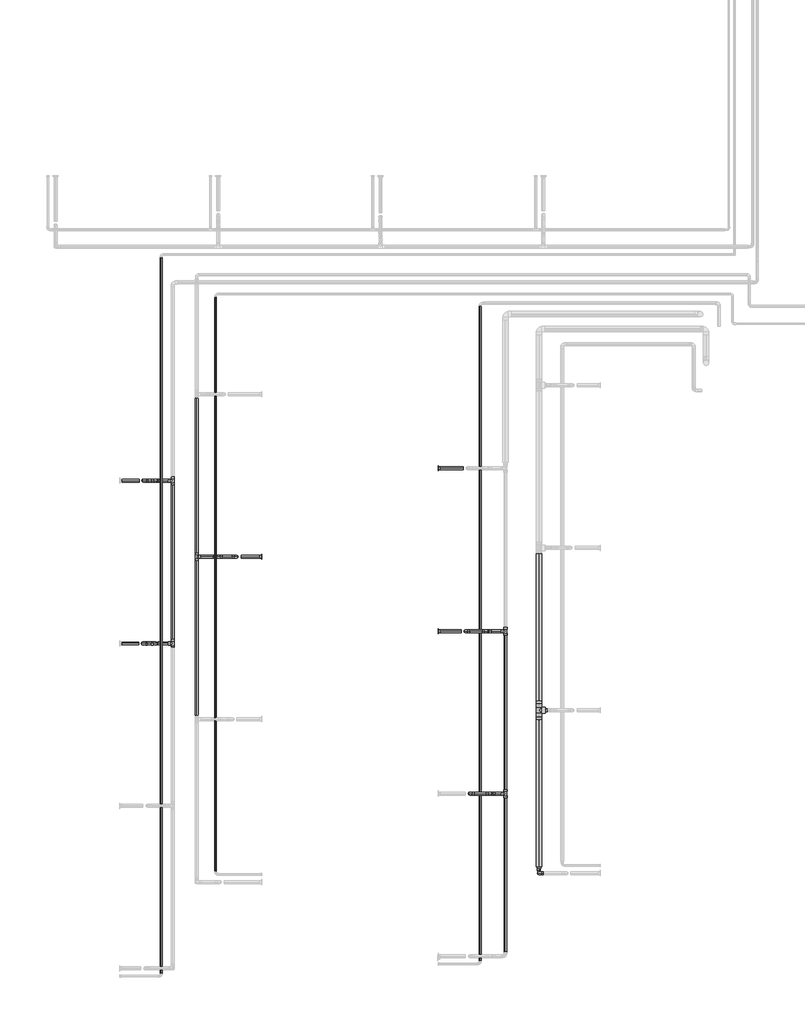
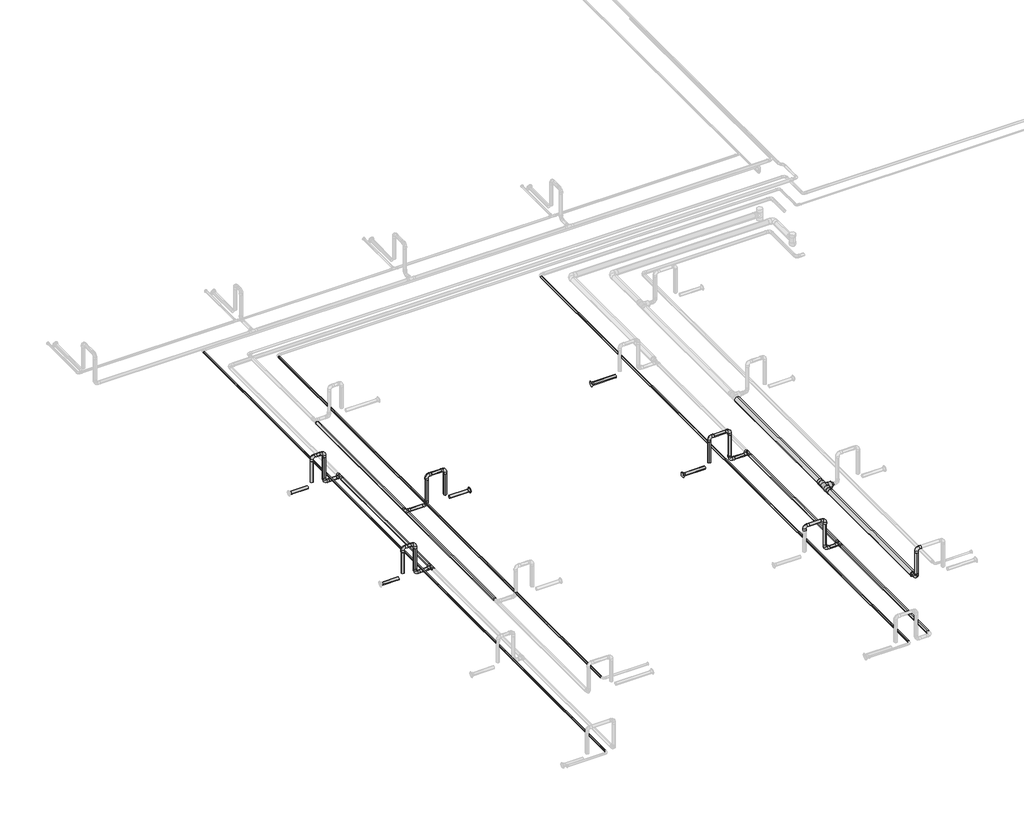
# One storey, part 2 of 22: 35 pipe segments, 30 pipe fittings.
"""IFC4 building model written with IfcOpenShell, lengths in millimetres."""

from ifc_helpers import new_model, si_unit, point, frame, frame_2d, origin, place, context, project, spatial, circle_curve, trimmed, segment, composite_curve, outline, extrude, transform, mapped, element, save
from components import pipe_fitting_06198d9f, pipe_fitting_f709da16, pipe_fitting_c89cbe9b, pipe_fitting_12d4bf2b, pipe_fitting_fefc82c8, pipe_fitting_3263ca60, pipe_fitting_ae0032d9

model = new_model("IFC4")

# Units and contexts
model_context = context("Model", 3, world=origin())
ifc_project = project(units=[si_unit("LENGTHUNIT", "METRE", prefix="MILLI")], contexts=[model_context])

# Site, building, storey
site = spatial("IfcSite", under=ifc_project)
building = spatial("IfcBuilding", under=site)
storey = spatial("IfcBuildingStorey", under=building, Name="Nível 2", Elevation=3880.0)

# Pipe fittings
placement = place(None, origin())
pipe_fitting_shape = pipe_fitting_06198d9f(model_context)
element("IfcPipeFitting", 1, ObjectType="Tê - Soldado - CU : Padrão", at=placement, inside=storey, context=model_context, shape_type="MappedRepresentation", body=[
    mapped(pipe_fitting_shape, transform((-8077.8302691, -6346.4373291, 3918.9), x_axis=(0.0, -1.0, 0.0), y_axis=(-1.0, 0.0, 0.0), z_axis=(0.0, 0.0, -1.0))),
])
pipe_fitting_2_shape = pipe_fitting_f709da16(model_context)
element("IfcPipeFitting", 2, ObjectType="Bucha de redução reta - Soldada - CU : Padrão", at=placement, inside=storey, context=model_context, shape_type="MappedRepresentation", body=[
    mapped(pipe_fitting_2_shape, transform((-8077.8302691, -6286.2873291, 3918.9), x_axis=(0.0, 1.0, 0.0), y_axis=(-1.0, 0.0, 0.0), z_axis=(0.0, 0.0, 1.0))),
])
element("IfcPipeFitting", 3, ObjectType="Bucha de redução reta - Soldada - CU : Padrão", at=placement, inside=storey, context=model_context, shape_type="MappedRepresentation", body=[
    mapped(pipe_fitting_2_shape, transform((-8077.8302691, -6406.5873291, 3918.9), x_axis=(0.0, -1.0, 0.0), y_axis=(1.0, 0.0, 0.0), z_axis=(0.0, 0.0, 1.0))),
])
pipe_fitting_3_shape = pipe_fitting_c89cbe9b(model_context)
element("IfcPipeFitting", 4, ObjectType="Bucha de redução reta - Soldada - CU : Padrão", at=placement, inside=storey, context=model_context, shape_type="MappedRepresentation", body=[
    mapped(pipe_fitting_3_shape, transform((-8017.8202691, -6346.4373291, 3918.9), x_axis=(1.0, 0.0, 0.0), y_axis=(0.0, 1.0, 0.0), z_axis=(0.0, 0.0, 1.0))),
])
pipe_fitting_4_shape = pipe_fitting_12d4bf2b(model_context)
element("IfcPipeFitting", 5, ObjectType="Bucha de redução reta - Soldada - CU : Padrão", at=placement, inside=storey, context=model_context, shape_type="MappedRepresentation", body=[
    mapped(pipe_fitting_4_shape, transform((-8077.8302691, -7848.2373291, 3918.9), x_axis=(0.0, 1.0, 0.0), y_axis=(-1.0, 0.0, 0.0), z_axis=(0.0, 0.0, 1.0))),
])
pipe_fitting_5_shape = pipe_fitting_fefc82c8(model_context)
element("IfcPipeFitting", 6, ObjectType="Cotovelo - Soldado - CU : Padrão", at=placement, inside=storey, context=model_context, shape_type="MappedRepresentation", body=[
    mapped(pipe_fitting_5_shape, transform((-8734.9926917, -7136.4473557, 4218.9), x_axis=(0.0, 0.0, 1.0), y_axis=(1.0, 0.0, 0.0), z_axis=(0.0, 1.0, 0.0))),
])
element("IfcPipeFitting", 7, ObjectType="Cotovelo - Soldado - CU : Padrão", at=placement, inside=storey, context=model_context, shape_type="MappedRepresentation", body=[
    mapped(pipe_fitting_5_shape, transform((-8534.9926917, -7136.4473557, 4218.9), x_axis=(1.0, 0.0, 0.0), y_axis=(0.0, 0.0, -1.0), z_axis=(0.0, 1.0, 0.0))),
])
element("IfcPipeFitting", 8, ObjectType="Cotovelo - Soldado - CU : Padrão", at=placement, inside=storey, context=model_context, shape_type="MappedRepresentation", body=[
    mapped(pipe_fitting_5_shape, transform((-8534.9926917, -7136.4473557, 3918.9), x_axis=(0.0, 0.0, -1.0), y_axis=(1.0, 0.0, 0.0), z_axis=(0.0, -1.0, 0.0))),
])
element("IfcPipeFitting", 9, ObjectType="Cotovelo - Soldado - CU : Padrão", at=placement, inside=storey, context=model_context, shape_type="MappedRepresentation", body=[
    mapped(pipe_fitting_5_shape, transform((-8774.9926918, -5597.4473557, 4218.9), x_axis=(0.0, 0.0, 1.0), y_axis=(1.0, 0.0, 0.0), z_axis=(0.0, 1.0, 0.0))),
])
element("IfcPipeFitting", 10, ObjectType="Cotovelo - Soldado - CU : Padrão", at=placement, inside=storey, context=model_context, shape_type="MappedRepresentation", body=[
    mapped(pipe_fitting_5_shape, transform((-8574.9926918, -5597.4473557, 4218.9), x_axis=(1.0, 0.0, 0.0), y_axis=(0.0, 0.0, -1.0), z_axis=(0.0, 1.0, 0.0))),
])
element("IfcPipeFitting", 11, ObjectType="Cotovelo - Soldado - CU : Padrão", at=placement, inside=storey, context=model_context, shape_type="MappedRepresentation", body=[
    mapped(pipe_fitting_5_shape, transform((-8574.9926918, -5597.4473557, 3918.9), x_axis=(0.0, 0.0, -1.0), y_axis=(1.0, 0.0, 0.0), z_axis=(0.0, -1.0, 0.0))),
])
element("IfcPipeFitting", 12, ObjectType="Cotovelo - Soldado - CU : Padrão", at=placement, inside=storey, context=model_context, shape_type="MappedRepresentation", body=[
    mapped(pipe_fitting_5_shape, transform((-8077.8302691, -7890.4373291, 4218.9), x_axis=(-1.0, 0.0, 0.0), y_axis=(0.0, 0.0, -1.0), z_axis=(0.0, -1.0, 0.0))),
])
element("IfcPipeFitting", 13, ObjectType="Cotovelo - Soldado - CU : Padrão", at=placement, inside=storey, context=model_context, shape_type="MappedRepresentation", body=[
    mapped(pipe_fitting_5_shape, transform((-8077.8302691, -7890.4373291, 3918.9), x_axis=(0.0, 0.0, -1.0), y_axis=(0.0, 1.0, 0.0), z_axis=(1.0, 0.0, 0.0))),
])
element("IfcPipeFitting", 14, ObjectType="Cotovelo - Soldado - CU : Padrão", at=placement, inside=storey, context=model_context, shape_type="MappedRepresentation", body=[
    mapped(pipe_fitting_5_shape, transform((-10943.5282245, -4892.3118218, 4218.9), x_axis=(0.0, 0.0, 1.0), y_axis=(-1.0, 0.0, 0.0), z_axis=(0.0, -1.0, 0.0))),
])
element("IfcPipeFitting", 15, ObjectType="Cotovelo - Soldado - CU : Padrão", at=placement, inside=storey, context=model_context, shape_type="MappedRepresentation", body=[
    mapped(pipe_fitting_5_shape, transform((-11123.5282245, -4892.3118218, 4218.9), x_axis=(-1.0, 0.0, 0.0), y_axis=(0.0, 0.0, -1.0), z_axis=(0.0, -1.0, 0.0))),
])
element("IfcPipeFitting", 16, ObjectType="Cotovelo - Soldado - CU : Padrão", at=placement, inside=storey, context=model_context, shape_type="MappedRepresentation", body=[
    mapped(pipe_fitting_5_shape, transform((-11123.5282245, -4892.3118218, 3918.9), x_axis=(0.0, 0.0, -1.0), y_axis=(-1.0, 0.0, 0.0), z_axis=(0.0, 1.0, 0.0))),
])
element("IfcPipeFitting", 17, ObjectType="Cotovelo - Soldado - CU : Padrão", at=placement, inside=storey, context=model_context, shape_type="MappedRepresentation", body=[
    mapped(pipe_fitting_5_shape, transform((-11831.2126648, -5713.9118218, 4218.9), x_axis=(0.0, 0.0, 1.0), y_axis=(1.0, 0.0, 0.0), z_axis=(0.0, 1.0, 0.0))),
])
element("IfcPipeFitting", 18, ObjectType="Cotovelo - Soldado - CU : Padrão", at=placement, inside=storey, context=model_context, shape_type="MappedRepresentation", body=[
    mapped(pipe_fitting_5_shape, transform((-11711.2126648, -5713.9118218, 4218.9), x_axis=(1.0, 0.0, 0.0), y_axis=(0.0, 0.0, -1.0), z_axis=(0.0, 1.0, 0.0))),
])
element("IfcPipeFitting", 19, ObjectType="Cotovelo - Soldado - CU : Padrão", at=placement, inside=storey, context=model_context, shape_type="MappedRepresentation", body=[
    mapped(pipe_fitting_5_shape, transform((-11711.2126648, -5713.9118218, 3918.9), x_axis=(0.0, 0.0, -1.0), y_axis=(1.0, 0.0, 0.0), z_axis=(0.0, -1.0, 0.0))),
])
element("IfcPipeFitting", 20, ObjectType="Cotovelo - Soldado - CU : Padrão", at=placement, inside=storey, context=model_context, shape_type="MappedRepresentation", body=[
    mapped(pipe_fitting_5_shape, transform((-11826.2126648, -4169.9118218, 4218.9), x_axis=(0.0, 0.0, 1.0), y_axis=(1.0, 0.0, 0.0), z_axis=(0.0, 1.0, 0.0))),
])
element("IfcPipeFitting", 21, ObjectType="Cotovelo - Soldado - CU : Padrão", at=placement, inside=storey, context=model_context, shape_type="MappedRepresentation", body=[
    mapped(pipe_fitting_5_shape, transform((-11706.2126648, -4169.9118218, 4218.9), x_axis=(1.0, 0.0, 0.0), y_axis=(0.0, 0.0, -1.0), z_axis=(0.0, 1.0, 0.0))),
])
element("IfcPipeFitting", 22, ObjectType="Cotovelo - Soldado - CU : Padrão", at=placement, inside=storey, context=model_context, shape_type="MappedRepresentation", body=[
    mapped(pipe_fitting_5_shape, transform((-11706.2126648, -4169.9118218, 3918.9), x_axis=(0.0, 0.0, -1.0), y_axis=(1.0, 0.0, 0.0), z_axis=(0.0, -1.0, 0.0))),
])
pipe_fitting_6_shape = pipe_fitting_3263ca60(model_context)
element("IfcPipeFitting", 23, ObjectType="Bucha de redução reta - Soldada - CU : Padrão", at=placement, inside=storey, context=model_context, shape_type="MappedRepresentation", body=[
    mapped(pipe_fitting_6_shape, transform((-9034.9926912, -5597.4473557, 3918.8823309), x_axis=(1.0, 0.0, 0.0), y_axis=(0.0, 1.0, 0.0), z_axis=(0.0, 0.0, 1.0))),
])
element("IfcPipeFitting", 24, ObjectType="Bucha de redução reta - Soldada - CU : Padrão", at=placement, inside=storey, context=model_context, shape_type="MappedRepresentation", body=[
    mapped(pipe_fitting_6_shape, transform((-9034.9926912, -4053.4473557, 3918.8823309), x_axis=(1.0, 0.0, 0.0), y_axis=(0.0, 1.0, 0.0), z_axis=(0.0, 0.0, 1.0))),
])
element("IfcPipeFitting", 25, ObjectType="Bucha de redução reta - Soldada - CU : Padrão", at=placement, inside=storey, context=model_context, shape_type="MappedRepresentation", body=[
    mapped(pipe_fitting_6_shape, transform((-10703.5282251, -4892.3118218, 3918.8823309), x_axis=(-1.0, 0.0, 0.0), y_axis=(0.0, -1.0, 0.0), z_axis=(0.0, 0.0, 1.0))),
])
pipe_fitting_7_shape = pipe_fitting_ae0032d9(model_context)
element("IfcPipeFitting", 26, ObjectType="Tê - Soldado - CU : Padrão", at=placement, inside=storey, context=model_context, shape_type="MappedRepresentation", body=[
    mapped(pipe_fitting_7_shape, transform((-8395.5926914, -7136.4473557, 3918.9), x_axis=(0.0, -1.0, 0.0), y_axis=(1.0, 0.0, 0.0), z_axis=(0.0, 0.0, 1.0))),
])
element("IfcPipeFitting", 27, ObjectType="Tê - Soldado - CU : Padrão", at=placement, inside=storey, context=model_context, shape_type="MappedRepresentation", body=[
    mapped(pipe_fitting_7_shape, transform((-8395.5926914, -5597.4473557, 3918.9), x_axis=(0.0, -1.0, 0.0), y_axis=(1.0, 0.0, 0.0), z_axis=(0.0, 0.0, 1.0))),
])
element("IfcPipeFitting", 28, ObjectType="Tê - Soldado - CU : Padrão", at=placement, inside=storey, context=model_context, shape_type="MappedRepresentation", body=[
    mapped(pipe_fitting_7_shape, transform((-11323.5282247, -4892.3118218, 3918.9), x_axis=(0.0, -1.0, 0.0), y_axis=(-1.0, 0.0, 0.0), z_axis=(0.0, 0.0, -1.0))),
])
element("IfcPipeFitting", 29, ObjectType="Tê - Soldado - CU : Padrão", at=placement, inside=storey, context=model_context, shape_type="MappedRepresentation", body=[
    mapped(pipe_fitting_7_shape, transform((-11551.2126646, -5713.9118218, 3918.9), x_axis=(0.0, -1.0, 0.0), y_axis=(1.0, 0.0, 0.0), z_axis=(0.0, 0.0, 1.0))),
])
element("IfcPipeFitting", 30, ObjectType="Tê - Soldado - CU : Padrão", at=placement, inside=storey, context=model_context, shape_type="MappedRepresentation", body=[
    mapped(pipe_fitting_7_shape, transform((-11551.2126646, -4169.9118218, 3918.9), x_axis=(0.0, -1.0, 0.0), y_axis=(1.0, 0.0, 0.0), z_axis=(0.0, 0.0, 1.0))),
])

# Pipe segments
element("IfcPipeSegment", 31, ObjectType="Tubos de cobre HVAC", at=placement, inside=storey, context=model_context, shape_type="SweptSolid", body=[
    extrude(outline(composite_curve([segment(trimmed(circle_curve(frame_2d((-7136.4473557, 4218.9)), 14.0), [point((-7150.4473557, 4218.9))], [point((-7136.4473557, 4232.9))], False, "CARTESIAN"), True, "CONTINUOUS"), segment(trimmed(circle_curve(frame_2d((-7136.4473557, 4218.9)), 14.0), [point((-7136.4473557, 4232.9))], [point((-7122.4473557, 4218.9))], False, "CARTESIAN"), True, "CONTINUOUS"), segment(trimmed(circle_curve(frame_2d((-7136.4473557, 4218.9)), 14.0), [point((-7122.4473557, 4218.9))], [point((-7136.4473557, 4204.9))], False, "CARTESIAN"), True, "CONTINUOUS"), segment(trimmed(circle_curve(frame_2d((-7136.4473557, 4218.9)), 14.0), [point((-7136.4473557, 4204.9))], [point((-7150.4473557, 4218.9))], False, "CARTESIAN"), True, "CONTINUOUS")], self_intersect=False)), frame((-8692.7926917, 0.0, 0.0), z_axis=(1.0, 0.0, 0.0), x_axis=(0.0, 1.0, 0.0)), (0.0, 0.0, 1.0), 115.6),
])
element("IfcPipeSegment", 32, ObjectType="Tubos de cobre HVAC", at=placement, inside=storey, context=model_context, shape_type="SweptSolid", body=[
    extrude(outline(composite_curve([segment(trimmed(circle_curve(frame_2d((-8534.9926917, -7136.4473557)), 14.0), [point((-8548.9926917, -7136.4473557))], [point((-8534.9926917, -7122.4473557))], False, "CARTESIAN"), True, "CONTINUOUS"), segment(trimmed(circle_curve(frame_2d((-8534.9926917, -7136.4473557)), 14.0), [point((-8534.9926917, -7122.4473557))], [point((-8520.9926917, -7136.4473557))], False, "CARTESIAN"), True, "CONTINUOUS"), segment(trimmed(circle_curve(frame_2d((-8534.9926917, -7136.4473557)), 14.0), [point((-8520.9926917, -7136.4473557))], [point((-8534.9926917, -7150.4473557))], False, "CARTESIAN"), True, "CONTINUOUS"), segment(trimmed(circle_curve(frame_2d((-8534.9926917, -7136.4473557)), 14.0), [point((-8534.9926917, -7150.4473557))], [point((-8548.9926917, -7136.4473557))], False, "CARTESIAN"), True, "CONTINUOUS")], self_intersect=False)), frame((0.0, 0.0, 3961.1), z_axis=(0.0, 0.0, 1.0), x_axis=(1.0, 0.0, 0.0)), (0.0, 0.0, 1.0), 215.6),
])
element("IfcPipeSegment", 33, ObjectType="Tubos de cobre HVAC", at=placement, inside=storey, context=model_context, shape_type="SweptSolid", body=[
    extrude(outline(composite_curve([segment(trimmed(circle_curve(frame_2d((-7136.4473557, 3918.9)), 14.0), [point((-7122.4473557, 3918.9))], [point((-7136.4473557, 3904.9))], False, "CARTESIAN"), True, "CONTINUOUS"), segment(trimmed(circle_curve(frame_2d((-7136.4473557, 3918.9)), 14.0), [point((-7136.4473557, 3904.9))], [point((-7150.4473557, 3918.9))], False, "CARTESIAN"), True, "CONTINUOUS"), segment(trimmed(circle_curve(frame_2d((-7136.4473557, 3918.9)), 14.0), [point((-7150.4473557, 3918.9))], [point((-7136.4473557, 3932.9))], False, "CARTESIAN"), True, "CONTINUOUS"), segment(trimmed(circle_curve(frame_2d((-7136.4473557, 3918.9)), 14.0), [point((-7136.4473557, 3932.9))], [point((-7122.4473557, 3918.9))], False, "CARTESIAN"), True, "CONTINUOUS")], self_intersect=False)), frame((-8492.7926917, 0.0, 0.0), z_axis=(1.0, 0.0, 0.0), x_axis=(0.0, 1.0, 0.0)), (0.0, 0.0, 1.0), 58.7000003),
])
element("IfcPipeSegment", 34, ObjectType="Tubos de cobre HVAC", at=placement, inside=storey, context=model_context, shape_type="SweptSolid", body=[
    extrude(outline(composite_curve([segment(trimmed(circle_curve(frame_2d((3918.9, -8395.5926914)), 14.0), [point((3918.9, -8381.5926914))], [point((3932.9, -8395.5926914))], False, "CARTESIAN"), True, "CONTINUOUS"), segment(trimmed(circle_curve(frame_2d((3918.9, -8395.5926914)), 14.0), [point((3932.9, -8395.5926914))], [point((3918.9, -8409.5926914))], False, "CARTESIAN"), True, "CONTINUOUS"), segment(trimmed(circle_curve(frame_2d((3918.9, -8395.5926914)), 14.0), [point((3918.9, -8409.5926914))], [point((3904.9, -8395.5926914))], False, "CARTESIAN"), True, "CONTINUOUS"), segment(trimmed(circle_curve(frame_2d((3918.9, -8395.5926914)), 14.0), [point((3904.9, -8395.5926914))], [point((3918.9, -8381.5926914))], False, "CARTESIAN"), True, "CONTINUOUS")], self_intersect=False)), frame((0.0, -8635.2473557, 0.0), z_axis=(0.0, 1.0, 0.0), x_axis=(0.0, 0.0, 1.0)), (0.0, 0.0, 1.0), 1460.8),
])
element("IfcPipeSegment", 35, ObjectType="Tubos de cobre HVAC", at=placement, inside=storey, context=model_context, shape_type="SweptSolid", body=[
    extrude(outline(composite_curve([segment(trimmed(circle_curve(frame_2d((0.0, 14.0)), 14.0), [point((-14.0, 14.0))], [point((0.0, 28.0000001))], False, "CARTESIAN"), True, "CONTINUOUS"), segment(trimmed(circle_curve(frame_2d((0.0, 14.0)), 14.0), [point((0.0, 28.0000001))], [point((14.0, 14.0))], False, "CARTESIAN"), True, "CONTINUOUS"), segment(trimmed(circle_curve(frame_2d((0.0, 14.0)), 14.0), [point((14.0, 14.0))], [point((0.0, 0.0))], False, "CARTESIAN"), True, "CONTINUOUS"), segment(trimmed(circle_curve(frame_2d((0.0, 14.0)), 14.0), [point((0.0, 0.0))], [point((-14.0, 14.0))], False, "CARTESIAN"), True, "CONTINUOUS")], self_intersect=False)), frame((-9015.5916631, -5597.4473557, 3904.8823309), z_axis=(0.9999999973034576, 0.0, 7.343762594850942e-05), x_axis=(0.0, 1.0, 0.0)), (0.0, 0.0, 1.0), 198.4),
])
element("IfcPipeSegment", 36, ObjectType="Tubos de cobre HVAC", at=placement, inside=storey, context=model_context, shape_type="SweptSolid", body=[
    extrude(outline(composite_curve([segment(trimmed(circle_curve(frame_2d((-8774.9926918, -5597.4473557)), 14.0), [point((-8760.9926918, -5597.4473557))], [point((-8774.9926918, -5611.4473557))], False, "CARTESIAN"), True, "CONTINUOUS"), segment(trimmed(circle_curve(frame_2d((-8774.9926918, -5597.4473557)), 14.0), [point((-8774.9926918, -5611.4473557))], [point((-8788.9926918, -5597.4473557))], False, "CARTESIAN"), True, "CONTINUOUS"), segment(trimmed(circle_curve(frame_2d((-8774.9926918, -5597.4473557)), 14.0), [point((-8788.9926918, -5597.4473557))], [point((-8774.9926918, -5583.4473557))], False, "CARTESIAN"), True, "CONTINUOUS"), segment(trimmed(circle_curve(frame_2d((-8774.9926918, -5597.4473557)), 14.0), [point((-8774.9926918, -5583.4473557))], [point((-8760.9926918, -5597.4473557))], False, "CARTESIAN"), True, "CONTINUOUS")], self_intersect=False)), frame((0.0, 0.0, 3961.1000001), z_axis=(0.0, 0.0, 1.0), x_axis=(1.0, 0.0, 0.0)), (0.0, 0.0, 1.0), 215.5999999),
])
element("IfcPipeSegment", 37, ObjectType="Tubos de cobre HVAC", at=placement, inside=storey, context=model_context, shape_type="SweptSolid", body=[
    extrude(outline(composite_curve([segment(trimmed(circle_curve(frame_2d((-5597.4473557, 4218.9)), 14.0), [point((-5611.4473557, 4218.9))], [point((-5597.4473557, 4232.9))], False, "CARTESIAN"), True, "CONTINUOUS"), segment(trimmed(circle_curve(frame_2d((-5597.4473557, 4218.9)), 14.0), [point((-5597.4473557, 4232.9))], [point((-5583.4473557, 4218.9))], False, "CARTESIAN"), True, "CONTINUOUS"), segment(trimmed(circle_curve(frame_2d((-5597.4473557, 4218.9)), 14.0), [point((-5583.4473557, 4218.9))], [point((-5597.4473557, 4204.9))], False, "CARTESIAN"), True, "CONTINUOUS"), segment(trimmed(circle_curve(frame_2d((-5597.4473557, 4218.9)), 14.0), [point((-5597.4473557, 4204.9))], [point((-5611.4473557, 4218.9))], False, "CARTESIAN"), True, "CONTINUOUS")], self_intersect=False)), frame((-8732.7926918, 0.0, 0.0), z_axis=(1.0, 0.0, 0.0), x_axis=(0.0, 1.0, 0.0)), (0.0, 0.0, 1.0), 115.6),
])
element("IfcPipeSegment", 38, ObjectType="Tubos de cobre HVAC", at=placement, inside=storey, context=model_context, shape_type="SweptSolid", body=[
    extrude(outline(composite_curve([segment(trimmed(circle_curve(frame_2d((-8574.9926918, -5597.4473557)), 14.0), [point((-8588.9926918, -5597.4473557))], [point((-8574.9926918, -5583.4473557))], False, "CARTESIAN"), True, "CONTINUOUS"), segment(trimmed(circle_curve(frame_2d((-8574.9926918, -5597.4473557)), 14.0), [point((-8574.9926918, -5583.4473557))], [point((-8560.9926918, -5597.4473557))], False, "CARTESIAN"), True, "CONTINUOUS"), segment(trimmed(circle_curve(frame_2d((-8574.9926918, -5597.4473557)), 14.0), [point((-8560.9926918, -5597.4473557))], [point((-8574.9926918, -5611.4473557))], False, "CARTESIAN"), True, "CONTINUOUS"), segment(trimmed(circle_curve(frame_2d((-8574.9926918, -5597.4473557)), 14.0), [point((-8574.9926918, -5611.4473557))], [point((-8588.9926918, -5597.4473557))], False, "CARTESIAN"), True, "CONTINUOUS")], self_intersect=False)), frame((0.0, 0.0, 3961.1), z_axis=(0.0, 0.0, 1.0), x_axis=(1.0, 0.0, 0.0)), (0.0, 0.0, 1.0), 215.6),
])
element("IfcPipeSegment", 39, ObjectType="Tubos de cobre HVAC", at=placement, inside=storey, context=model_context, shape_type="SweptSolid", body=[
    extrude(outline(composite_curve([segment(trimmed(circle_curve(frame_2d((-5597.4473557, 3918.9)), 14.0), [point((-5583.4473557, 3918.9))], [point((-5597.4473557, 3904.9))], False, "CARTESIAN"), True, "CONTINUOUS"), segment(trimmed(circle_curve(frame_2d((-5597.4473557, 3918.9)), 14.0), [point((-5597.4473557, 3904.9))], [point((-5611.4473557, 3918.9))], False, "CARTESIAN"), True, "CONTINUOUS"), segment(trimmed(circle_curve(frame_2d((-5597.4473557, 3918.9)), 14.0), [point((-5611.4473557, 3918.9))], [point((-5597.4473557, 3932.9))], False, "CARTESIAN"), True, "CONTINUOUS"), segment(trimmed(circle_curve(frame_2d((-5597.4473557, 3918.9)), 14.0), [point((-5597.4473557, 3932.9))], [point((-5583.4473557, 3918.9))], False, "CARTESIAN"), True, "CONTINUOUS")], self_intersect=False)), frame((-8532.7926918, 0.0, 0.0), z_axis=(1.0, 0.0, 0.0), x_axis=(0.0, 1.0, 0.0)), (0.0, 0.0, 1.0), 98.7000004),
])
element("IfcPipeSegment", 40, ObjectType="Tubos de cobre HVAC", at=placement, inside=storey, context=model_context, shape_type="SweptSolid", body=[
    extrude(outline(composite_curve([segment(trimmed(circle_curve(frame_2d((3918.9, -8395.5926914)), 14.0), [point((3918.9, -8381.5926914))], [point((3932.9, -8395.5926914))], False, "CARTESIAN"), True, "CONTINUOUS"), segment(trimmed(circle_curve(frame_2d((3918.9, -8395.5926914)), 14.0), [point((3932.9, -8395.5926914))], [point((3918.9, -8409.5926914))], False, "CARTESIAN"), True, "CONTINUOUS"), segment(trimmed(circle_curve(frame_2d((3918.9, -8395.5926914)), 14.0), [point((3918.9, -8409.5926914))], [point((3904.9, -8395.5926914))], False, "CARTESIAN"), True, "CONTINUOUS"), segment(trimmed(circle_curve(frame_2d((3918.9, -8395.5926914)), 14.0), [point((3904.9, -8395.5926914))], [point((3918.9, -8381.5926914))], False, "CARTESIAN"), True, "CONTINUOUS")], self_intersect=False)), frame((0.0, -7098.4473557, 0.0), z_axis=(0.0, 1.0, 0.0), x_axis=(0.0, 0.0, 1.0)), (0.0, 0.0, 1.0), 1463.0),
])
element("IfcPipeSegment", 41, ObjectType="Tubos de cobre HVAC", at=placement, inside=storey, context=model_context, shape_type="SweptSolid", body=[
    extrude(outline(composite_curve([segment(trimmed(circle_curve(frame_2d((0.0, 14.0)), 14.0), [point((-14.0, 14.0))], [point((0.0, 28.0000001))], False, "CARTESIAN"), True, "CONTINUOUS"), segment(trimmed(circle_curve(frame_2d((0.0, 14.0)), 14.0), [point((0.0, 28.0000001))], [point((14.0, 14.0))], False, "CARTESIAN"), True, "CONTINUOUS"), segment(trimmed(circle_curve(frame_2d((0.0, 14.0)), 14.0), [point((14.0, 14.0))], [point((0.0, 0.0))], False, "CARTESIAN"), True, "CONTINUOUS"), segment(trimmed(circle_curve(frame_2d((0.0, 14.0)), 14.0), [point((0.0, 0.0))], [point((-14.0, 14.0))], False, "CARTESIAN"), True, "CONTINUOUS")], self_intersect=False)), frame((-9015.591742, -4053.4473557, 3904.8823309), z_axis=(0.9999999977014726, 0.0, 6.780158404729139e-05), x_axis=(0.0, 1.0, 0.0)), (0.0, 0.0, 1.0), 218.4),
])
element("IfcPipeSegment", 42, ObjectType="Tubos de cobre HVAC", at=placement, inside=storey, context=model_context, shape_type="SweptSolid", body=[
    extrude(outline(composite_curve([segment(trimmed(circle_curve(frame_2d((3954.6, -8634.9926925)), 7.935), [point((3954.6, -8627.0576925))], [point((3962.535, -8634.9926925))], False, "CARTESIAN"), True, "CONTINUOUS"), segment(trimmed(circle_curve(frame_2d((3954.6, -8634.9926925)), 7.935), [point((3962.535, -8634.9926925))], [point((3954.6, -8642.9276925))], False, "CARTESIAN"), True, "CONTINUOUS"), segment(trimmed(circle_curve(frame_2d((3954.6, -8634.9926925)), 7.935), [point((3954.6, -8642.9276925))], [point((3946.665, -8634.9926925))], False, "CARTESIAN"), True, "CONTINUOUS"), segment(trimmed(circle_curve(frame_2d((3954.6, -8634.9926925)), 7.935), [point((3946.665, -8634.9926925))], [point((3954.6, -8627.0576925))], False, "CARTESIAN"), True, "CONTINUOUS")], self_intersect=False)), frame((0.0, -8721.4687557, 0.0), z_axis=(0.0, 1.0, 0.0), x_axis=(0.0, 0.0, 1.0)), (0.0, 0.0, 1.0), 6204.6661335),
])
element("IfcPipeSegment", 43, ObjectType="Tubos de cobre HVAC", at=placement, inside=storey, context=model_context, shape_type="SweptSolid", body=[
    extrude(outline(composite_curve([segment(trimmed(circle_curve(frame_2d((-8077.8302691, -7890.4373291)), 14.0), [point((-8091.8302691, -7890.4373291))], [point((-8077.8302691, -7876.4373291))], False, "CARTESIAN"), True, "CONTINUOUS"), segment(trimmed(circle_curve(frame_2d((-8077.8302691, -7890.4373291)), 14.0), [point((-8077.8302691, -7876.4373291))], [point((-8063.8302691, -7890.4373291))], False, "CARTESIAN"), True, "CONTINUOUS"), segment(trimmed(circle_curve(frame_2d((-8077.8302691, -7890.4373291)), 14.0), [point((-8063.8302691, -7890.4373291))], [point((-8077.8302691, -7904.4373291))], False, "CARTESIAN"), True, "CONTINUOUS"), segment(trimmed(circle_curve(frame_2d((-8077.8302691, -7890.4373291)), 14.0), [point((-8077.8302691, -7904.4373291))], [point((-8091.8302691, -7890.4373291))], False, "CARTESIAN"), True, "CONTINUOUS")], self_intersect=False)), frame((0.0, 0.0, 3961.1), z_axis=(0.0, 0.0, 1.0), x_axis=(1.0, 0.0, 0.0)), (0.0, 0.0, 1.0), 215.6),
])
element("IfcPipeSegment", 44, ObjectType="Tubos de cobre HVAC", at=placement, inside=storey, context=model_context, shape_type="SweptSolid", body=[
    extrude(outline(composite_curve([segment(trimmed(circle_curve(frame_2d((3918.9, -8077.8302691)), 25.4), [point((3918.9, -8052.4302691))], [point((3944.3, -8077.8302691))], False, "CARTESIAN"), True, "CONTINUOUS"), segment(trimmed(circle_curve(frame_2d((3918.9, -8077.8302691)), 25.4), [point((3944.3, -8077.8302691))], [point((3918.9, -8103.2302691))], False, "CARTESIAN"), True, "CONTINUOUS"), segment(trimmed(circle_curve(frame_2d((3918.9, -8077.8302691)), 25.4), [point((3918.9, -8103.2302691))], [point((3893.5, -8077.8302691))], False, "CARTESIAN"), True, "CONTINUOUS"), segment(trimmed(circle_curve(frame_2d((3918.9, -8077.8302691)), 25.4), [point((3893.5, -8077.8302691))], [point((3918.9, -8052.4302691))], False, "CARTESIAN"), True, "CONTINUOUS")], self_intersect=False)), frame((0.0, -7828.8373291, 0.0), z_axis=(0.0, 1.0, 0.0), x_axis=(0.0, 0.0, 1.0)), (0.0, 0.0, 1.0), 1393.174),
])
element("IfcPipeSegment", 45, ObjectType="Tubos de cobre HVAC", at=placement, inside=storey, context=model_context, shape_type="SweptSolid", body=[
    extrude(outline(composite_curve([segment(trimmed(circle_curve(frame_2d((3918.9, -8077.8302691)), 25.4), [point((3918.9, -8052.4302691))], [point((3944.3, -8077.8302691))], False, "CARTESIAN"), True, "CONTINUOUS"), segment(trimmed(circle_curve(frame_2d((3918.9, -8077.8302691)), 25.4), [point((3944.3, -8077.8302691))], [point((3918.9, -8103.2302691))], False, "CARTESIAN"), True, "CONTINUOUS"), segment(trimmed(circle_curve(frame_2d((3918.9, -8077.8302691)), 25.4), [point((3918.9, -8103.2302691))], [point((3893.5, -8077.8302691))], False, "CARTESIAN"), True, "CONTINUOUS"), segment(trimmed(circle_curve(frame_2d((3918.9, -8077.8302691)), 25.4), [point((3893.5, -8077.8302691))], [point((3918.9, -8052.4302691))], False, "CARTESIAN"), True, "CONTINUOUS")], self_intersect=False)), frame((0.0, -6257.2113291, 0.0), z_axis=(0.0, 1.0, 0.0), x_axis=(0.0, 0.0, 1.0)), (0.0, 0.0, 1.0), 1394.02),
])
element("IfcPipeSegment", 46, ObjectType="Tubos de cobre HVAC", at=placement, inside=storey, context=model_context, shape_type="SweptSolid", body=[
    extrude(outline(composite_curve([segment(trimmed(circle_curve(frame_2d((0.0, 13.9999999)), 14.0), [point((-14.0, 13.9999999))], [point((0.0, 28.0))], False, "CARTESIAN"), True, "CONTINUOUS"), segment(trimmed(circle_curve(frame_2d((0.0, 13.9999999)), 14.0), [point((0.0, 28.0))], [point((14.0, 13.9999999))], False, "CARTESIAN"), True, "CONTINUOUS"), segment(trimmed(circle_curve(frame_2d((0.0, 13.9999999)), 14.0), [point((14.0, 13.9999999))], [point((0.0, 0.0))], False, "CARTESIAN"), True, "CONTINUOUS"), segment(trimmed(circle_curve(frame_2d((0.0, 13.9999999)), 14.0), [point((0.0, 0.0))], [point((-14.0, 13.9999999))], False, "CARTESIAN"), True, "CONTINUOUS")], self_intersect=False)), frame((-10722.9293464, -4892.3118218, 3904.882331), z_axis=(-0.9999999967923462, 0.0, 8.009561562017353e-05), x_axis=(0.0, -1.0, 0.0)), (0.0, 0.0, 1.0), 178.4000001),
])
element("IfcPipeSegment", 47, ObjectType="Tubos de cobre HVAC", at=placement, inside=storey, context=model_context, shape_type="SweptSolid", body=[
    extrude(outline(composite_curve([segment(trimmed(circle_curve(frame_2d((-10943.5282245, -4892.3118218)), 14.0), [point((-10929.5282245, -4892.3118218))], [point((-10943.5282245, -4906.3118218))], False, "CARTESIAN"), True, "CONTINUOUS"), segment(trimmed(circle_curve(frame_2d((-10943.5282245, -4892.3118218)), 14.0), [point((-10943.5282245, -4906.3118218))], [point((-10957.5282245, -4892.3118218))], False, "CARTESIAN"), True, "CONTINUOUS"), segment(trimmed(circle_curve(frame_2d((-10943.5282245, -4892.3118218)), 14.0), [point((-10957.5282245, -4892.3118218))], [point((-10943.5282245, -4878.3118218))], False, "CARTESIAN"), True, "CONTINUOUS"), segment(trimmed(circle_curve(frame_2d((-10943.5282245, -4892.3118218)), 14.0), [point((-10943.5282245, -4878.3118218))], [point((-10929.5282245, -4892.3118218))], False, "CARTESIAN"), True, "CONTINUOUS")], self_intersect=False)), frame((0.0, 0.0, 3961.1000001), z_axis=(0.0, 0.0, 1.0), x_axis=(1.0, 0.0, 0.0)), (0.0, 0.0, 1.0), 215.5999999),
])
element("IfcPipeSegment", 48, ObjectType="Tubos de cobre HVAC", at=placement, inside=storey, context=model_context, shape_type="SweptSolid", body=[
    extrude(outline(composite_curve([segment(trimmed(circle_curve(frame_2d((-4892.3118218, 4218.9)), 14.0), [point((-4878.3118218, 4218.9))], [point((-4892.3118218, 4204.9))], False, "CARTESIAN"), True, "CONTINUOUS"), segment(trimmed(circle_curve(frame_2d((-4892.3118218, 4218.9)), 14.0), [point((-4892.3118218, 4204.9))], [point((-4906.3118218, 4218.9))], False, "CARTESIAN"), True, "CONTINUOUS"), segment(trimmed(circle_curve(frame_2d((-4892.3118218, 4218.9)), 14.0), [point((-4906.3118218, 4218.9))], [point((-4892.3118218, 4232.9))], False, "CARTESIAN"), True, "CONTINUOUS"), segment(trimmed(circle_curve(frame_2d((-4892.3118218, 4218.9)), 14.0), [point((-4892.3118218, 4232.9))], [point((-4878.3118218, 4218.9))], False, "CARTESIAN"), True, "CONTINUOUS")], self_intersect=False)), frame((-11081.3282245, 0.0, 0.0), z_axis=(1.0, 0.0, 0.0), x_axis=(0.0, 1.0, 0.0)), (0.0, 0.0, 1.0), 95.6),
])
element("IfcPipeSegment", 49, ObjectType="Tubos de cobre HVAC", at=placement, inside=storey, context=model_context, shape_type="SweptSolid", body=[
    extrude(outline(composite_curve([segment(trimmed(circle_curve(frame_2d((-11123.5282245, -4892.3118218)), 14.0), [point((-11137.5282245, -4892.3118218))], [point((-11123.5282245, -4878.3118218))], False, "CARTESIAN"), True, "CONTINUOUS"), segment(trimmed(circle_curve(frame_2d((-11123.5282245, -4892.3118218)), 14.0), [point((-11123.5282245, -4878.3118218))], [point((-11109.5282245, -4892.3118218))], False, "CARTESIAN"), True, "CONTINUOUS"), segment(trimmed(circle_curve(frame_2d((-11123.5282245, -4892.3118218)), 14.0), [point((-11109.5282245, -4892.3118218))], [point((-11123.5282245, -4906.3118218))], False, "CARTESIAN"), True, "CONTINUOUS"), segment(trimmed(circle_curve(frame_2d((-11123.5282245, -4892.3118218)), 14.0), [point((-11123.5282245, -4906.3118218))], [point((-11137.5282245, -4892.3118218))], False, "CARTESIAN"), True, "CONTINUOUS")], self_intersect=False)), frame((0.0, 0.0, 3961.1), z_axis=(0.0, 0.0, 1.0), x_axis=(1.0, 0.0, 0.0)), (0.0, 0.0, 1.0), 215.6),
])
element("IfcPipeSegment", 50, ObjectType="Tubos de cobre HVAC", at=placement, inside=storey, context=model_context, shape_type="SweptSolid", body=[
    extrude(outline(composite_curve([segment(trimmed(circle_curve(frame_2d((-4892.3118218, 3918.9)), 14.0), [point((-4906.3118218, 3918.9))], [point((-4892.3118218, 3932.9))], False, "CARTESIAN"), True, "CONTINUOUS"), segment(trimmed(circle_curve(frame_2d((-4892.3118218, 3918.9)), 14.0), [point((-4892.3118218, 3932.9))], [point((-4878.3118218, 3918.9))], False, "CARTESIAN"), True, "CONTINUOUS"), segment(trimmed(circle_curve(frame_2d((-4892.3118218, 3918.9)), 14.0), [point((-4878.3118218, 3918.9))], [point((-4892.3118218, 3904.9))], False, "CARTESIAN"), True, "CONTINUOUS"), segment(trimmed(circle_curve(frame_2d((-4892.3118218, 3918.9)), 14.0), [point((-4892.3118218, 3904.9))], [point((-4906.3118218, 3918.9))], False, "CARTESIAN"), True, "CONTINUOUS")], self_intersect=False)), frame((-11285.0282247, 0.0, 0.0), z_axis=(1.0, 0.0, 0.0), x_axis=(0.0, 1.0, 0.0)), (0.0, 0.0, 1.0), 119.3000003),
])
element("IfcPipeSegment", 51, ObjectType="Tubos de cobre HVAC", at=placement, inside=storey, context=model_context, shape_type="SweptSolid", body=[
    extrude(outline(composite_curve([segment(trimmed(circle_curve(frame_2d((3918.9, -11323.5282247)), 14.0), [point((3918.9, -11309.5282247))], [point((3932.9, -11323.5282247))], False, "CARTESIAN"), True, "CONTINUOUS"), segment(trimmed(circle_curve(frame_2d((3918.9, -11323.5282247)), 14.0), [point((3932.9, -11323.5282247))], [point((3918.9, -11337.5282247))], False, "CARTESIAN"), True, "CONTINUOUS"), segment(trimmed(circle_curve(frame_2d((3918.9, -11323.5282247)), 14.0), [point((3918.9, -11337.5282247))], [point((3904.9, -11323.5282247))], False, "CARTESIAN"), True, "CONTINUOUS"), segment(trimmed(circle_curve(frame_2d((3918.9, -11323.5282247)), 14.0), [point((3904.9, -11323.5282247))], [point((3918.9, -11309.5282247))], False, "CARTESIAN"), True, "CONTINUOUS")], self_intersect=False)), frame((0.0, -6393.3118218, 0.0), z_axis=(0.0, 1.0, 0.0), x_axis=(0.0, 0.0, 1.0)), (0.0, 0.0, 1.0), 1463.0),
])
element("IfcPipeSegment", 52, ObjectType="Tubos de cobre HVAC", at=placement, inside=storey, context=model_context, shape_type="SweptSolid", body=[
    extrude(outline(composite_curve([segment(trimmed(circle_curve(frame_2d((3918.9, -11323.5282247)), 14.0), [point((3918.9, -11309.5282247))], [point((3932.9, -11323.5282247))], False, "CARTESIAN"), True, "CONTINUOUS"), segment(trimmed(circle_curve(frame_2d((3918.9, -11323.5282247)), 14.0), [point((3932.9, -11323.5282247))], [point((3918.9, -11337.5282247))], False, "CARTESIAN"), True, "CONTINUOUS"), segment(trimmed(circle_curve(frame_2d((3918.9, -11323.5282247)), 14.0), [point((3918.9, -11337.5282247))], [point((3904.9, -11323.5282247))], False, "CARTESIAN"), True, "CONTINUOUS"), segment(trimmed(circle_curve(frame_2d((3918.9, -11323.5282247)), 14.0), [point((3904.9, -11323.5282247))], [point((3918.9, -11309.5282247))], False, "CARTESIAN"), True, "CONTINUOUS")], self_intersect=False)), frame((0.0, -4854.3118218, 0.0), z_axis=(0.0, 1.0, 0.0), x_axis=(0.0, 0.0, 1.0)), (0.0, 0.0, 1.0), 1465.0),
])
element("IfcPipeSegment", 53, ObjectType="Tubos de cobre HVAC", at=placement, inside=storey, context=model_context, shape_type="SweptSolid", body=[
    extrude(outline(composite_curve([segment(trimmed(circle_curve(frame_2d((3954.6, -11143.5282239)), 7.935), [point((3954.6, -11135.5932239))], [point((3962.535, -11143.5282239))], False, "CARTESIAN"), True, "CONTINUOUS"), segment(trimmed(circle_curve(frame_2d((3954.6, -11143.5282239)), 7.935), [point((3962.535, -11143.5282239))], [point((3954.6, -11151.4632239))], False, "CARTESIAN"), True, "CONTINUOUS"), segment(trimmed(circle_curve(frame_2d((3954.6, -11143.5282239)), 7.935), [point((3954.6, -11151.4632239))], [point((3946.665, -11143.5282239))], False, "CARTESIAN"), True, "CONTINUOUS"), segment(trimmed(circle_curve(frame_2d((3954.6, -11143.5282239)), 7.935), [point((3946.665, -11143.5282239))], [point((3954.6, -11135.5932239))], False, "CARTESIAN"), True, "CONTINUOUS")], self_intersect=False)), frame((0.0, -7873.3332218, 0.0), z_axis=(0.0, 1.0, 0.0), x_axis=(0.0, 0.0, 1.0)), (0.0, 0.0, 1.0), 5442.0428),
])
element("IfcPipeSegment", 54, ObjectType="Tubos de cobre HVAC", at=placement, inside=storey, context=model_context, shape_type="SweptSolid", body=[
    extrude(outline(composite_curve([segment(trimmed(circle_curve(frame_2d((0.0, 14.0)), 14.0), [point((-14.0, 14.0))], [point((0.0, 28.0))], False, "CARTESIAN"), True, "CONTINUOUS"), segment(trimmed(circle_curve(frame_2d((0.0, 14.0)), 14.0), [point((0.0, 28.0))], [point((14.0, 14.0))], False, "CARTESIAN"), True, "CONTINUOUS"), segment(trimmed(circle_curve(frame_2d((0.0, 14.0)), 14.0), [point((14.0, 14.0))], [point((0.0, 0.0))], False, "CARTESIAN"), True, "CONTINUOUS"), segment(trimmed(circle_curve(frame_2d((0.0, 14.0)), 14.0), [point((0.0, 0.0))], [point((-14.0, 14.0))], False, "CARTESIAN"), True, "CONTINUOUS")], self_intersect=False)), frame((-12031.811431, -5713.9118218, 3904.882331), z_axis=(0.9999999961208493, 0.0, 8.808122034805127e-05), x_axis=(0.0, 1.0, 0.0)), (0.0, 0.0, 1.0), 158.4000001),
])
element("IfcPipeSegment", 55, ObjectType="Tubos de cobre HVAC", at=placement, inside=storey, context=model_context, shape_type="SweptSolid", body=[
    extrude(outline(composite_curve([segment(trimmed(circle_curve(frame_2d((-11831.2126648, -5713.9118218)), 14.0), [point((-11817.2126648, -5713.9118218))], [point((-11831.2126648, -5727.9118218))], False, "CARTESIAN"), True, "CONTINUOUS"), segment(trimmed(circle_curve(frame_2d((-11831.2126648, -5713.9118218)), 14.0), [point((-11831.2126648, -5727.9118218))], [point((-11845.2126648, -5713.9118218))], False, "CARTESIAN"), True, "CONTINUOUS"), segment(trimmed(circle_curve(frame_2d((-11831.2126648, -5713.9118218)), 14.0), [point((-11845.2126648, -5713.9118218))], [point((-11831.2126648, -5699.9118218))], False, "CARTESIAN"), True, "CONTINUOUS"), segment(trimmed(circle_curve(frame_2d((-11831.2126648, -5713.9118218)), 14.0), [point((-11831.2126648, -5699.9118218))], [point((-11817.2126648, -5713.9118218))], False, "CARTESIAN"), True, "CONTINUOUS")], self_intersect=False)), frame((0.0, 0.0, 3961.1000002), z_axis=(0.0, 0.0, 1.0), x_axis=(1.0, 0.0, 0.0)), (0.0, 0.0, 1.0), 215.5999998),
])
element("IfcPipeSegment", 56, ObjectType="Tubos de cobre HVAC", at=placement, inside=storey, context=model_context, shape_type="SweptSolid", body=[
    extrude(outline(composite_curve([segment(trimmed(circle_curve(frame_2d((-5713.9118218, 4218.9)), 14.0), [point((-5727.9118218, 4218.9))], [point((-5713.9118218, 4232.9))], False, "CARTESIAN"), True, "CONTINUOUS"), segment(trimmed(circle_curve(frame_2d((-5713.9118218, 4218.9)), 14.0), [point((-5713.9118218, 4232.9))], [point((-5699.9118218, 4218.9))], False, "CARTESIAN"), True, "CONTINUOUS"), segment(trimmed(circle_curve(frame_2d((-5713.9118218, 4218.9)), 14.0), [point((-5699.9118218, 4218.9))], [point((-5713.9118218, 4204.9))], False, "CARTESIAN"), True, "CONTINUOUS"), segment(trimmed(circle_curve(frame_2d((-5713.9118218, 4218.9)), 14.0), [point((-5713.9118218, 4204.9))], [point((-5727.9118218, 4218.9))], False, "CARTESIAN"), True, "CONTINUOUS")], self_intersect=False)), frame((-11789.0126648, 0.0, 0.0), z_axis=(1.0, 0.0, 0.0), x_axis=(0.0, 1.0, 0.0)), (0.0, 0.0, 1.0), 35.6),
])
element("IfcPipeSegment", 57, ObjectType="Tubos de cobre HVAC", at=placement, inside=storey, context=model_context, shape_type="SweptSolid", body=[
    extrude(outline(composite_curve([segment(trimmed(circle_curve(frame_2d((-11711.2126648, -5713.9118218)), 14.0), [point((-11725.2126648, -5713.9118218))], [point((-11711.2126648, -5699.9118218))], False, "CARTESIAN"), True, "CONTINUOUS"), segment(trimmed(circle_curve(frame_2d((-11711.2126648, -5713.9118218)), 14.0), [point((-11711.2126648, -5699.9118218))], [point((-11697.2126648, -5713.9118218))], False, "CARTESIAN"), True, "CONTINUOUS"), segment(trimmed(circle_curve(frame_2d((-11711.2126648, -5713.9118218)), 14.0), [point((-11697.2126648, -5713.9118218))], [point((-11711.2126648, -5727.9118218))], False, "CARTESIAN"), True, "CONTINUOUS"), segment(trimmed(circle_curve(frame_2d((-11711.2126648, -5713.9118218)), 14.0), [point((-11711.2126648, -5727.9118218))], [point((-11725.2126648, -5713.9118218))], False, "CARTESIAN"), True, "CONTINUOUS")], self_intersect=False)), frame((0.0, 0.0, 3961.1), z_axis=(0.0, 0.0, 1.0), x_axis=(1.0, 0.0, 0.0)), (0.0, 0.0, 1.0), 215.6),
])
element("IfcPipeSegment", 58, ObjectType="Tubos de cobre HVAC", at=placement, inside=storey, context=model_context, shape_type="SweptSolid", body=[
    extrude(outline(composite_curve([segment(trimmed(circle_curve(frame_2d((-5713.9118218, 3918.9)), 14.0), [point((-5699.9118218, 3918.9))], [point((-5713.9118218, 3904.9))], False, "CARTESIAN"), True, "CONTINUOUS"), segment(trimmed(circle_curve(frame_2d((-5713.9118218, 3918.9)), 14.0), [point((-5713.9118218, 3904.9))], [point((-5727.9118218, 3918.9))], False, "CARTESIAN"), True, "CONTINUOUS"), segment(trimmed(circle_curve(frame_2d((-5713.9118218, 3918.9)), 14.0), [point((-5727.9118218, 3918.9))], [point((-5713.9118218, 3932.9))], False, "CARTESIAN"), True, "CONTINUOUS"), segment(trimmed(circle_curve(frame_2d((-5713.9118218, 3918.9)), 14.0), [point((-5713.9118218, 3932.9))], [point((-5699.9118218, 3918.9))], False, "CARTESIAN"), True, "CONTINUOUS")], self_intersect=False)), frame((-11669.0126648, 0.0, 0.0), z_axis=(1.0, 0.0, 0.0), x_axis=(0.0, 1.0, 0.0)), (0.0, 0.0, 1.0), 79.3000002),
])
element("IfcPipeSegment", 59, ObjectType="Tubos de cobre HVAC", at=placement, inside=storey, context=model_context, shape_type="SweptSolid", body=[
    extrude(outline(composite_curve([segment(trimmed(circle_curve(frame_2d((0.0, 14.0)), 14.0), [point((-14.0, 14.0))], [point((0.0, 28.0))], False, "CARTESIAN"), True, "CONTINUOUS"), segment(trimmed(circle_curve(frame_2d((0.0, 14.0)), 14.0), [point((0.0, 28.0))], [point((14.0, 14.0))], False, "CARTESIAN"), True, "CONTINUOUS"), segment(trimmed(circle_curve(frame_2d((0.0, 14.0)), 14.0), [point((14.0, 14.0))], [point((0.0, 0.0))], False, "CARTESIAN"), True, "CONTINUOUS"), segment(trimmed(circle_curve(frame_2d((0.0, 14.0)), 14.0), [point((0.0, 0.0))], [point((-14.0, 14.0))], False, "CARTESIAN"), True, "CONTINUOUS")], self_intersect=False)), frame((-12031.8114609, -4169.9118218, 3904.882331), z_axis=(0.9999999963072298, 0.0, 8.593916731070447e-05), x_axis=(0.0, 1.0, 0.0)), (0.0, 0.0, 1.0), 163.4000001),
])
element("IfcPipeSegment", 60, ObjectType="Tubos de cobre HVAC", at=placement, inside=storey, context=model_context, shape_type="SweptSolid", body=[
    extrude(outline(composite_curve([segment(trimmed(circle_curve(frame_2d((-11826.2126648, -4169.9118218)), 14.0), [point((-11812.2126648, -4169.9118218))], [point((-11826.2126648, -4183.9118218))], False, "CARTESIAN"), True, "CONTINUOUS"), segment(trimmed(circle_curve(frame_2d((-11826.2126648, -4169.9118218)), 14.0), [point((-11826.2126648, -4183.9118218))], [point((-11840.2126648, -4169.9118218))], False, "CARTESIAN"), True, "CONTINUOUS"), segment(trimmed(circle_curve(frame_2d((-11826.2126648, -4169.9118218)), 14.0), [point((-11840.2126648, -4169.9118218))], [point((-11826.2126648, -4155.9118218))], False, "CARTESIAN"), True, "CONTINUOUS"), segment(trimmed(circle_curve(frame_2d((-11826.2126648, -4169.9118218)), 14.0), [point((-11826.2126648, -4155.9118218))], [point((-11812.2126648, -4169.9118218))], False, "CARTESIAN"), True, "CONTINUOUS")], self_intersect=False)), frame((0.0, 0.0, 3961.1000002), z_axis=(0.0, 0.0, 1.0), x_axis=(1.0, 0.0, 0.0)), (0.0, 0.0, 1.0), 215.5999998),
])
element("IfcPipeSegment", 61, ObjectType="Tubos de cobre HVAC", at=placement, inside=storey, context=model_context, shape_type="SweptSolid", body=[
    extrude(outline(composite_curve([segment(trimmed(circle_curve(frame_2d((-4169.9118218, 4218.9)), 14.0), [point((-4183.9118218, 4218.9))], [point((-4169.9118218, 4232.9))], False, "CARTESIAN"), True, "CONTINUOUS"), segment(trimmed(circle_curve(frame_2d((-4169.9118218, 4218.9)), 14.0), [point((-4169.9118218, 4232.9))], [point((-4155.9118218, 4218.9))], False, "CARTESIAN"), True, "CONTINUOUS"), segment(trimmed(circle_curve(frame_2d((-4169.9118218, 4218.9)), 14.0), [point((-4155.9118218, 4218.9))], [point((-4169.9118218, 4204.9))], False, "CARTESIAN"), True, "CONTINUOUS"), segment(trimmed(circle_curve(frame_2d((-4169.9118218, 4218.9)), 14.0), [point((-4169.9118218, 4204.9))], [point((-4183.9118218, 4218.9))], False, "CARTESIAN"), True, "CONTINUOUS")], self_intersect=False)), frame((-11784.0126648, 0.0, 0.0), z_axis=(1.0, 0.0, 0.0), x_axis=(0.0, 1.0, 0.0)), (0.0, 0.0, 1.0), 35.6),
])
element("IfcPipeSegment", 62, ObjectType="Tubos de cobre HVAC", at=placement, inside=storey, context=model_context, shape_type="SweptSolid", body=[
    extrude(outline(composite_curve([segment(trimmed(circle_curve(frame_2d((-11706.2126648, -4169.9118218)), 14.0), [point((-11720.2126648, -4169.9118218))], [point((-11706.2126648, -4155.9118218))], False, "CARTESIAN"), True, "CONTINUOUS"), segment(trimmed(circle_curve(frame_2d((-11706.2126648, -4169.9118218)), 14.0), [point((-11706.2126648, -4155.9118218))], [point((-11692.2126648, -4169.9118218))], False, "CARTESIAN"), True, "CONTINUOUS"), segment(trimmed(circle_curve(frame_2d((-11706.2126648, -4169.9118218)), 14.0), [point((-11692.2126648, -4169.9118218))], [point((-11706.2126648, -4183.9118218))], False, "CARTESIAN"), True, "CONTINUOUS"), segment(trimmed(circle_curve(frame_2d((-11706.2126648, -4169.9118218)), 14.0), [point((-11706.2126648, -4183.9118218))], [point((-11720.2126648, -4169.9118218))], False, "CARTESIAN"), True, "CONTINUOUS")], self_intersect=False)), frame((0.0, 0.0, 3961.1), z_axis=(0.0, 0.0, 1.0), x_axis=(1.0, 0.0, 0.0)), (0.0, 0.0, 1.0), 215.6),
])
element("IfcPipeSegment", 63, ObjectType="Tubos de cobre HVAC", at=placement, inside=storey, context=model_context, shape_type="SweptSolid", body=[
    extrude(outline(composite_curve([segment(trimmed(circle_curve(frame_2d((-4169.9118218, 3918.9)), 14.0), [point((-4155.9118218, 3918.9))], [point((-4169.9118218, 3904.9))], False, "CARTESIAN"), True, "CONTINUOUS"), segment(trimmed(circle_curve(frame_2d((-4169.9118218, 3918.9)), 14.0), [point((-4169.9118218, 3904.9))], [point((-4183.9118218, 3918.9))], False, "CARTESIAN"), True, "CONTINUOUS"), segment(trimmed(circle_curve(frame_2d((-4169.9118218, 3918.9)), 14.0), [point((-4183.9118218, 3918.9))], [point((-4169.9118218, 3932.9))], False, "CARTESIAN"), True, "CONTINUOUS"), segment(trimmed(circle_curve(frame_2d((-4169.9118218, 3918.9)), 14.0), [point((-4169.9118218, 3932.9))], [point((-4155.9118218, 3918.9))], False, "CARTESIAN"), True, "CONTINUOUS")], self_intersect=False)), frame((-11664.0126648, 0.0, 0.0), z_axis=(1.0, 0.0, 0.0), x_axis=(0.0, 1.0, 0.0)), (0.0, 0.0, 1.0), 74.3000002),
])
element("IfcPipeSegment", 64, ObjectType="Tubos de cobre HVAC", at=placement, inside=storey, context=model_context, shape_type="SweptSolid", body=[
    extrude(outline(composite_curve([segment(trimmed(circle_curve(frame_2d((3918.9, -11551.2126646)), 14.0), [point((3918.9, -11537.2126646))], [point((3932.9, -11551.2126646))], False, "CARTESIAN"), True, "CONTINUOUS"), segment(trimmed(circle_curve(frame_2d((3918.9, -11551.2126646)), 14.0), [point((3932.9, -11551.2126646))], [point((3918.9, -11565.2126646))], False, "CARTESIAN"), True, "CONTINUOUS"), segment(trimmed(circle_curve(frame_2d((3918.9, -11551.2126646)), 14.0), [point((3918.9, -11565.2126646))], [point((3904.9, -11551.2126646))], False, "CARTESIAN"), True, "CONTINUOUS"), segment(trimmed(circle_curve(frame_2d((3918.9, -11551.2126646)), 14.0), [point((3904.9, -11551.2126646))], [point((3918.9, -11537.2126646))], False, "CARTESIAN"), True, "CONTINUOUS")], self_intersect=False)), frame((0.0, -5675.9118218, 0.0), z_axis=(0.0, 1.0, 0.0), x_axis=(0.0, 0.0, 1.0)), (0.0, 0.0, 1.0), 1468.0),
])
element("IfcPipeSegment", 65, ObjectType="Tubos de cobre HVAC", at=placement, inside=storey, context=model_context, shape_type="SweptSolid", body=[
    extrude(outline(composite_curve([segment(trimmed(circle_curve(frame_2d((0.0, 7.935)), 7.935), [point((0.0, 15.87))], [point((7.935, 7.935))], False, "CARTESIAN"), True, "CONTINUOUS"), segment(trimmed(circle_curve(frame_2d((0.0, 7.935)), 7.935), [point((7.935, 7.935))], [point((0.0, 0.0))], False, "CARTESIAN"), True, "CONTINUOUS"), segment(trimmed(circle_curve(frame_2d((0.0, 7.935)), 7.935), [point((0.0, 0.0))], [point((-7.935, 7.935))], False, "CARTESIAN"), True, "CONTINUOUS"), segment(trimmed(circle_curve(frame_2d((0.0, 7.935)), 7.935), [point((-7.935, 7.935))], [point((0.0, 15.87))], False, "CARTESIAN"), True, "CONTINUOUS")], self_intersect=False)), frame((-11666.4887659, -8837.9332218, 3954.594821), z_axis=(0.0, 0.9999999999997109, 7.603841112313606e-07), x_axis=(0.0, -7.603841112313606e-07, 0.9999999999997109)), (0.0, 0.0, 1.0), 6782.0428),
])

save(model, "model.ifc")
